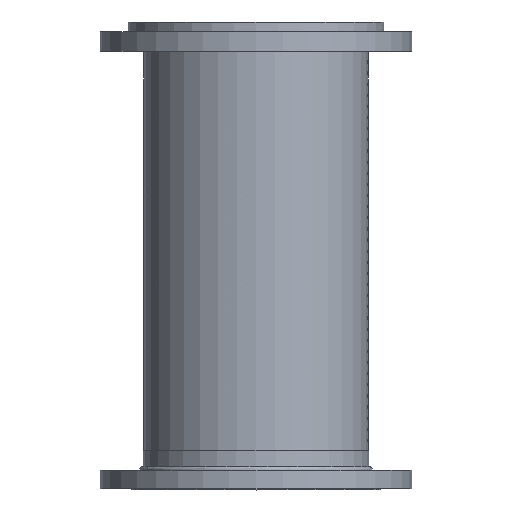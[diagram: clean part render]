
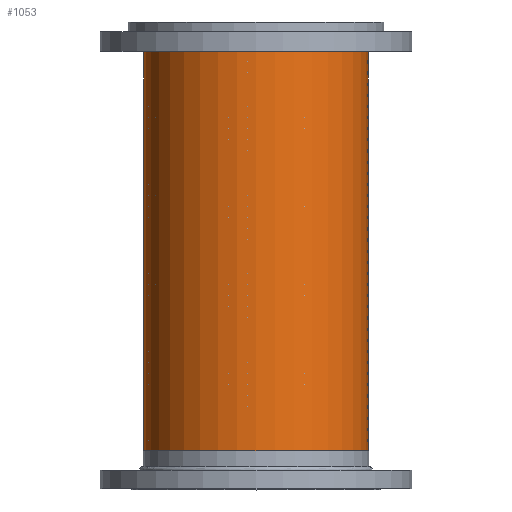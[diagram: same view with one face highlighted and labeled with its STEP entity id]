
A CAD part, top view. The second image highlights one B-rep face of the part: STEP entity #1053.
In plain terms, the highlighted cylindrical face has radius 146.05 mm (diameter 292.1 mm), a full revolution.
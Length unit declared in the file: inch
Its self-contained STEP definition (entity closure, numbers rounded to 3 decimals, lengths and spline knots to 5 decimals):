
#1019=CARTESIAN_POINT('',(-5.75,-11.25,0.));
#1020=VERTEX_POINT('',#1019);
#1021=CARTESIAN_POINT('',(0.0,-11.25,0.0));
#1022=DIRECTION('',(0.0,1.0,0.0));
#1023=DIRECTION('',(1.0,0.0,0.0));
#1024=AXIS2_PLACEMENT_3D('',#1021,#1022,#1023);
#1025=CIRCLE('',#1024,5.75);
#1026=EDGE_CURVE('',#1020,#1020,#1025,.T.);
#1034=CARTESIAN_POINT('',(0.0,0.0,0.0));
#1035=DIRECTION('',(0.0,1.0,0.0));
#1036=DIRECTION('',(1.0,0.0,0.0));
#1037=AXIS2_PLACEMENT_3D('',#1034,#1035,#1036);
#1038=CYLINDRICAL_SURFACE('',#1037,5.75);
#1039=ORIENTED_EDGE('',*,*,#1026,.T.);
#1040=EDGE_LOOP('',(#1039));
#1041=FACE_OUTER_BOUND('',#1040,.T.);
#1042=CARTESIAN_POINT('',(-5.75,11.25,0.));
#1043=VERTEX_POINT('',#1042);
#1044=CARTESIAN_POINT('',(0.0,11.25,0.0));
#1045=DIRECTION('',(0.0,-1.0,0.0));
#1046=DIRECTION('',(1.0,0.0,0.0));
#1047=AXIS2_PLACEMENT_3D('',#1044,#1045,#1046);
#1048=CIRCLE('',#1047,5.75);
#1049=EDGE_CURVE('',#1043,#1043,#1048,.T.);
#1050=ORIENTED_EDGE('',*,*,#1049,.T.);
#1051=EDGE_LOOP('',(#1050));
#1052=FACE_BOUND('',#1051,.T.);
#1053=ADVANCED_FACE('',(#1041,#1052),#1038,.T.);
